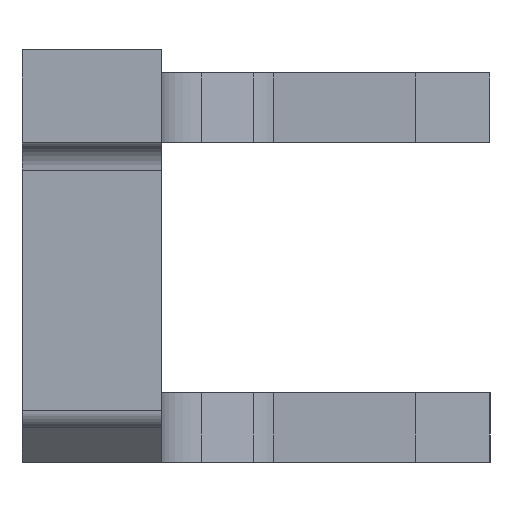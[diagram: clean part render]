
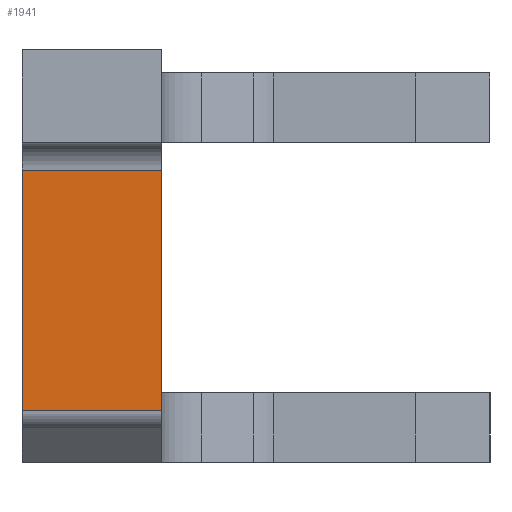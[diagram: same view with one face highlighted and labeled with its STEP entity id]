
A CAD part, left-side view. The second image highlights one B-rep face of the part: STEP entity #1941.
In plain terms, the highlighted free-form (B-spline) face has degree [1, 1] with [2, 2] control points.
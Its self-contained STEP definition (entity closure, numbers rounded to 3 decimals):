
#985=CARTESIAN_POINT('',(-76.338,53.375,-18.));
#986=VERTEX_POINT('',#985);
#994=CARTESIAN_POINT('',(-76.338,53.375,-69.856));
#995=VERTEX_POINT('',#994);
#996=CARTESIAN_POINT('',(-76.338,53.375,-69.856));
#997=DIRECTION('',(0.0,0.0,1.0));
#998=VECTOR('',#997,51.856);
#999=LINE('',#996,#998);
#1000=EDGE_CURVE('',#995,#986,#999,.T.);
#1711=CARTESIAN_POINT('',(-76.338,83.375,-69.856));
#1712=VERTEX_POINT('',#1711);
#1720=CARTESIAN_POINT('',(-76.338,83.375,-18.));
#1721=VERTEX_POINT('',#1720);
#1722=CARTESIAN_POINT('',(-76.338,83.375,-18.));
#1723=DIRECTION('',(0.0,0.0,-1.0));
#1724=VECTOR('',#1723,51.856);
#1725=LINE('',#1722,#1724);
#1726=EDGE_CURVE('',#1721,#1712,#1725,.T.);
#1914=CARTESIAN_POINT('',(-76.338,83.375,-69.856));
#1915=DIRECTION('',(0.0,-1.0,0.0));
#1916=VECTOR('',#1915,30.);
#1917=LINE('',#1914,#1916);
#1918=EDGE_CURVE('',#1712,#995,#1917,.T.);
#1925=CARTESIAN_POINT('',(-76.338,83.375,-69.856));
#1926=CARTESIAN_POINT('',(-76.338,83.375,-18.));
#1927=CARTESIAN_POINT('',(-76.338,53.375,-69.856));
#1928=CARTESIAN_POINT('',(-76.338,53.375,-18.));
#1929=B_SPLINE_SURFACE_WITH_KNOTS('',1,1,((#1925,#1927),(#1926,#1928)),.UNSPECIFIED.,.F.,.F.,.U.,(2,2),(2,2),(0.0,51.856),(0.0,30.),.UNSPECIFIED.);
#1930=ORIENTED_EDGE('',*,*,#1000,.T.);
#1931=CARTESIAN_POINT('',(-76.338,83.375,-18.));
#1932=DIRECTION('',(0.0,-1.0,0.0));
#1933=VECTOR('',#1932,30.);
#1934=LINE('',#1931,#1933);
#1935=EDGE_CURVE('',#1721,#986,#1934,.T.);
#1936=ORIENTED_EDGE('',*,*,#1935,.F.);
#1937=ORIENTED_EDGE('',*,*,#1726,.T.);
#1938=ORIENTED_EDGE('',*,*,#1918,.T.);
#1939=EDGE_LOOP('',(#1930,#1936,#1937,#1938));
#1940=FACE_OUTER_BOUND('',#1939,.T.);
#1941=ADVANCED_FACE('',(#1940),#1929,.F.);
